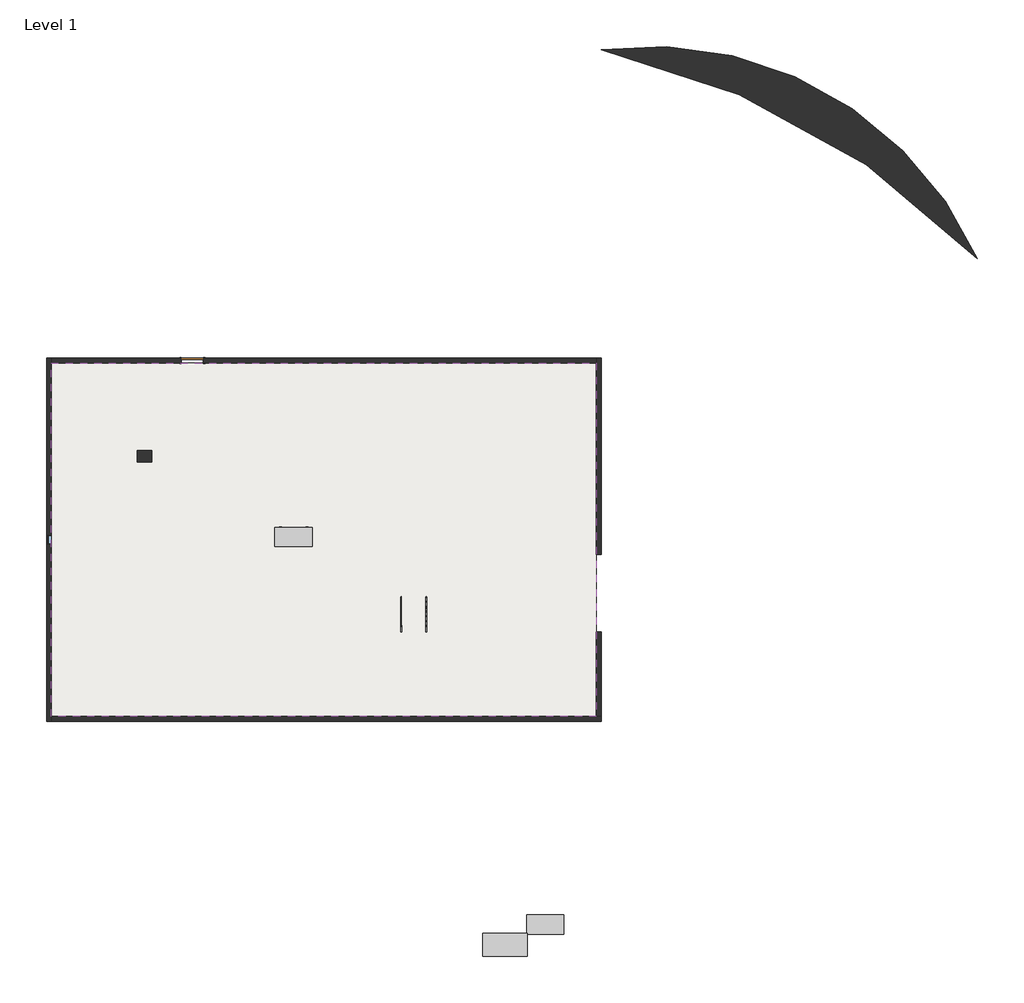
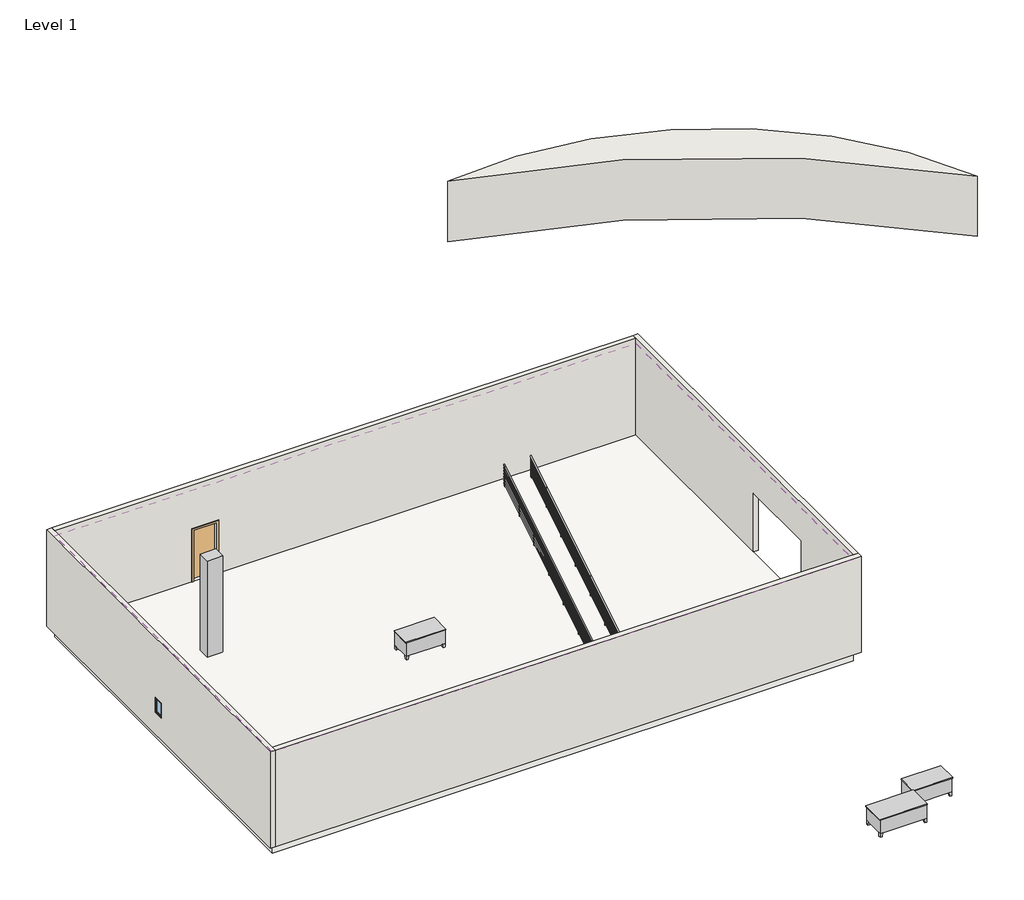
# One storey: 5 walls, 3 furniture elements, 2 railings, 1 column, 1 covering, 1 door, 1 slab, 1 window.
"""IFC4 building model written with IfcOpenShell, lengths in millimetres."""

from ifc_helpers import new_model, si_unit, frame, origin, place, context, project, spatial, polyline, outline, extrude, faceted_brep, transform, mapped, element, save
from components import m_rectangular_column_475_x_610mm_b7c60445, m_single_flush_0915_x_2134mm_6a9e8738, m_desk_1525_x_762mm_student_aed207d5, m_desk_1830_x_915mm_d81ff609, railing_900mm_pipe_8454365b, railing_900mm_pipe_2b441174, walls_1_walls_1_20c79dd2, m_fixed_0406_x_0610mm_8205b201

model = new_model("IFC4")

# Units and contexts
model_context = context("Model", 3, world=origin())
ifc_project = project(units=[si_unit("LENGTHUNIT", "METRE", prefix="MILLI")], contexts=[model_context])

# Site, building, storey
site = spatial("IfcSite", under=ifc_project)
building = spatial("IfcBuilding", under=site)
storey = spatial("IfcBuildingStorey", under=building, Name="Level 1", Elevation=0.0)

# Column
placement = place(None, origin())
m_rectangular_column_475_x_610mm_shape = m_rectangular_column_475_x_610mm_b7c60445(model_context)
element("IfcColumn", 1, ObjectType="M_Rectangular Column : 475 x 610mm", at=placement, inside=storey, context=model_context, shape_type="MappedRepresentation", body=[
    mapped(m_rectangular_column_475_x_610mm_shape, transform((-6212.1530787, 3474.9630851, 0.0), x_axis=(1.0, 0.0, 0.0), y_axis=(0.0, 1.0, 0.0), z_axis=(0.0, 0.0, 1.0))),
])

# Covering
element("IfcCovering", 2, ObjectType="600 x 1200mm grid", at=placement, inside=storey, context=model_context, shape_type="SweptSolid", body=[
    extrude(outline(polyline([(12687.8469213, -7425.0369149), (-10112.1530787, -7425.0369149), (-10112.1530787, 7374.9630851), (12687.8469213, 7374.9630851), (12687.8469213, -7425.0369149)]), holes=[polyline([(4546.7758541, -1964.7600263), (5546.7758541, -1964.7600263), (5546.7758541, 2035.2399737), (4546.7758541, 2035.2399737), (4546.7758541, -1964.7600263)])]), frame((0.0, 0.0, 3800.0), z_axis=(0.0, 0.0, 1.0), x_axis=(1.0, 0.0, 0.0)), (0.0, 0.0, 1.0), 52.0),
])

# Door
m_single_flush_0915_x_2134mm_shape = m_single_flush_0915_x_2134mm_6a9e8738(model_context)
element("IfcDoor", 3, ObjectType="M_Single-Flush : 0915 x 2134mm", at=placement, inside=storey, context=model_context, shape_type="MappedRepresentation", body=[
    mapped(m_single_flush_0915_x_2134mm_shape, transform((-4212.1530787, 7474.9630851, 0.0), x_axis=(1.0, 0.0, 0.0), y_axis=(0.0, 1.0, 0.0), z_axis=(0.0, 0.0, 1.0))),
])

# Furniture
m_desk_1525_x_762mm_student_shape = m_desk_1525_x_762mm_student_aed207d5(model_context)
element("IfcFurniture", 4, ObjectType="M_Desk : 1525 x 762mm", at=placement, inside=storey, context=model_context, shape_type="MappedRepresentation", body=[
    mapped(m_desk_1525_x_762mm_student_shape, transform((-737.1530787, -287.0369149, 0.0), x_axis=(1.0, 0.0, 0.0), y_axis=(0.0, 1.0, 0.0), z_axis=(0.0, 0.0, 1.0))),
])
element("IfcFurniture", 5, ObjectType="M_Desk : 1525 x 762mm Student", at=placement, inside=storey, context=model_context, shape_type="MappedRepresentation", body=[
    mapped(m_desk_1525_x_762mm_student_shape, transform((9787.8469213, -16512.3369149, 0.0), x_axis=(1.0, 0.0, 0.0), y_axis=(0.0, 1.0, 0.0), z_axis=(0.0, 0.0, 1.0))),
])
m_desk_1830_x_915mm_shape = m_desk_1830_x_915mm_d81ff609(model_context)
element("IfcFurniture", 6, ObjectType="M_Desk : 1830 x 915mm", at=placement, inside=storey, context=model_context, shape_type="MappedRepresentation", body=[
    mapped(m_desk_1830_x_915mm_shape, transform((7957.8469213, -17440.0369149, 0.0), x_axis=(1.0, 0.0, 0.0), y_axis=(0.0, 1.0, 0.0), z_axis=(0.0, 0.0, 1.0))),
])

# Railings
railing_900mm_pipe_shape = railing_900mm_pipe_8454365b(model_context)
element("IfcRailing", 7, ObjectType="900mm Pipe", at=placement, inside=storey, context=model_context, shape_type="MappedRepresentation", body=[
    mapped(railing_900mm_pipe_shape, transform((0.0, 0.0, 0.0), x_axis=(1.0, 0.0, 0.0), y_axis=(0.0, 1.0, 0.0), z_axis=(0.0, 0.0, 1.0))),
])
railing_900mm_pipe_2_shape = railing_900mm_pipe_2b441174(model_context)
element("IfcRailing", 8, ObjectType="900mm Pipe", at=placement, inside=storey, context=model_context, shape_type="MappedRepresentation", body=[
    mapped(railing_900mm_pipe_2_shape, transform((0.0, 0.0, 0.0), x_axis=(1.0, 0.0, 0.0), y_axis=(0.0, 1.0, 0.0), z_axis=(0.0, 0.0, 1.0))),
])

# Slab
element("IfcSlab", 9, ObjectType="Generic Floor - 400mm", at=placement, inside=storey, context=model_context, shape_type="SweptSolid", body=[
    extrude(outline(polyline([(-10112.1530787, -7425.0369149), (-10112.1530787, 7374.9630851), (12687.8469213, 7374.9630851), (12687.8469213, -7425.0369149), (-10112.1530787, -7425.0369149)])), frame((0.0, 0.0, -400.0), z_axis=(0.0, 0.0, 1.0), x_axis=(1.0, 0.0, 0.0)), (0.0, 0.0, 1.0), 400.0),
])

# Walls
element("IfcWall", 10, ObjectType="Generic - 200mm", at=placement, inside=storey, context=model_context, shape_type="Brep", body=[
    faceted_brep([(-10312.1530787, 7574.9630851, 0.0), (-10312.1530787, -7625.0369149, 0.0), (-10312.1530787, -7625.0369149, 4000.0), (-10312.1530787, 7574.9630851, 4000.0), (-10312.1530787, -228.0369149, 915.0), (-10312.1530787, 177.9630851, 915.0), (-10312.1530787, 177.9630851, 1525.0), (-10312.1530787, -228.0369149, 1525.0), (-10112.1530787, 7574.9630851, 0.0), (-10112.1530787, 7574.9630851, 4000.0), (-10112.1530787, 7374.9630851, 4000.0), (-10112.1530787, -7425.0369149, 4000.0), (-10112.1530787, -7625.0369149, 4000.0), (-10112.1530787, -7625.0369149, 0.0), (-10112.1530787, -7425.0369149, 0.0), (-10112.1530787, 7374.9630851, 0.0), (-10112.1530787, -228.0369149, 915.0), (-10112.1530787, -228.0369149, 1525.0), (-10112.1530787, 177.9630851, 1525.0), (-10112.1530787, 177.9630851, 915.0)], [[[0, 1, 2, 3], [4, 5, 6, 7]], [[8, 9, 10, 11, 12, 13, 14, 15], [16, 17, 18, 19]], [[1, 0, 8, 15, 14, 13]], [[3, 2, 12, 11, 10, 9]], [[2, 1, 13, 12]], [[0, 3, 9, 8]], [[17, 16, 4, 7]], [[18, 17, 7, 6]], [[19, 18, 6, 5]], [[16, 19, 5, 4]]]),
])
element("IfcWall", 11, ObjectType="Generic - 200mm", at=placement, inside=storey, context=model_context, shape_type="Brep", body=[
    faceted_brep([(-10112.1530787, -7625.0369149, 0.0), (12887.8469213, -7625.0369149, 0.0), (12887.8469213, -7625.0369149, 4000.0), (-10112.1530787, -7625.0369149, 4000.0), (-10112.1530787, -7425.0369149, 0.0), (-10112.1530787, -7425.0369149, 4000.0), (12687.8469213, -7425.0369149, 4000.0), (12887.8469213, -7425.0369149, 4000.0), (12887.8469213, -7425.0369149, 0.0), (12687.8469213, -7425.0369149, 0.0)], [[[0, 1, 2, 3]], [[4, 5, 6, 7, 8, 9]], [[1, 0, 4, 9, 8]], [[3, 2, 7, 6, 5]], [[2, 1, 8, 7]], [[0, 3, 5, 4]]]),
])
element("IfcWall", 12, ObjectType="Generic - 200mm", at=placement, inside=storey, context=model_context, shape_type="Brep", body=[
    faceted_brep([(12887.8469213, 7574.9630851, 0.0), (12887.8469213, 7574.9630851, 4000.0), (12887.8469213, -7425.0369149, 4000.0), (12887.8469213, -7425.0369149, 0.0), (12887.8469213, -3889.7600263, 0.0), (12887.8469213, -3889.7600263, 2438.4), (12887.8469213, -631.3429104, 2438.4), (12887.8469213, -631.3429104, 0.0), (12687.8469213, 7574.9630851, 4000.0), (12687.8469213, 7574.9630851, 0.0), (12687.8469213, 7374.9630851, 0.0), (12687.8469213, -631.3429104, 0.0), (12687.8469213, -631.3429104, 2438.4), (12687.8469213, -3889.7600263, 2438.4), (12687.8469213, -3889.7600263, 0.0), (12687.8469213, -7425.0369149, 0.0), (12687.8469213, -7425.0369149, 4000.0), (12687.8469213, 7374.9630851, 4000.0)], [[[0, 1, 2, 3, 4, 5, 6, 7]], [[8, 9, 10, 11, 12, 13, 14, 15, 16, 17]], [[9, 0, 7, 11, 10]], [[3, 15, 14, 4]], [[2, 1, 8, 17, 16]], [[5, 13, 12, 6]], [[13, 5, 4, 14]], [[6, 12, 11, 7]], [[1, 0, 9, 8]], [[3, 2, 16, 15]]]),
])
element("IfcWall", 13, ObjectType="Generic - 200mm", at=placement, inside=storey, context=model_context, shape_type="SweptSolid", body=[
    extrude(outline(polyline([(2134.0, -3754.6530787), (0.0, -3754.6530787), (0.0, 12687.8469213), (4000.0, 12687.8469213), (4000.0, -10112.1530787), (0.0, -10112.1530787), (0.0, -4669.6530787), (2134.0, -4669.6530787), (2134.0, -3754.6530787)])), frame((0.0, 7374.9630851, 0.0), z_axis=(0.0, 1.0, 0.0), x_axis=(0.0, 0.0, 1.0)), (0.0, 0.0, 1.0), 200.0),
])
walls_1_walls_1_shape = walls_1_walls_1_20c79dd2(model_context)
element("IfcWall", 14, ObjectType="Walls 1 : Walls 1", at=placement, inside=storey, context=model_context, shape_type="MappedRepresentation", body=[
    mapped(walls_1_walls_1_shape, transform((0.0, 0.0, 0.0), x_axis=(1.0, 0.0, 0.0), y_axis=(0.0, 1.0, 0.0), z_axis=(0.0, 0.0, 1.0))),
])

# Window
m_fixed_0406_x_0610mm_shape = m_fixed_0406_x_0610mm_8205b201(model_context)
element("IfcWindow", 15, ObjectType="M_Fixed : 0406 x 0610mm", at=placement, inside=storey, context=model_context, shape_type="MappedRepresentation", body=[
    mapped(m_fixed_0406_x_0610mm_shape, transform((-10199.1530787, -25.0369149, 0.0), x_axis=(0.0, 1.0, 0.0), y_axis=(-1.0, 0.0, 0.0), z_axis=(0.0, 0.0, 1.0))),
])

save(model, "model.ifc")
